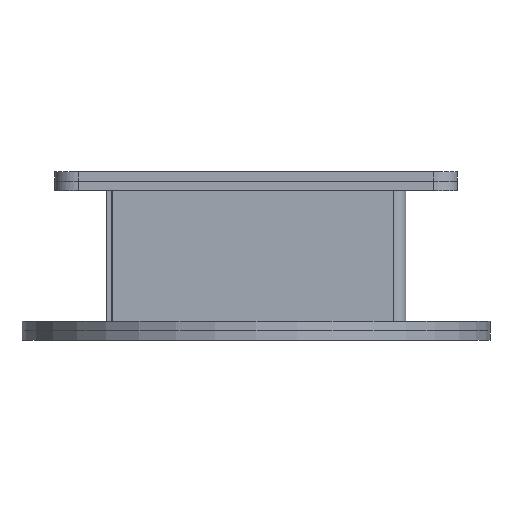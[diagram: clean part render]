
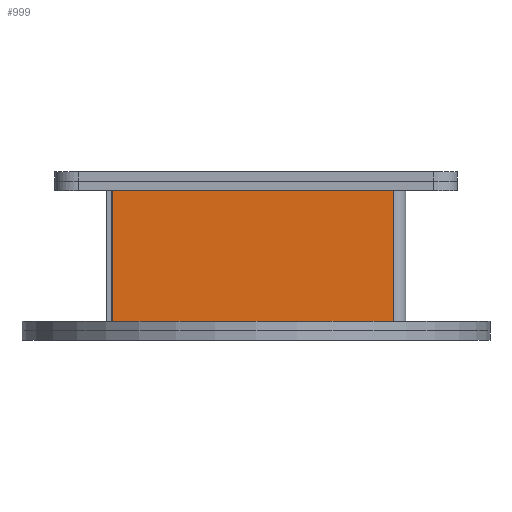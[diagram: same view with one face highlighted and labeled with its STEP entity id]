
A CAD part, front view. The second image highlights one B-rep face of the part: STEP entity #999.
In plain terms, the highlighted planar face has unit normal (0, -1, 0).
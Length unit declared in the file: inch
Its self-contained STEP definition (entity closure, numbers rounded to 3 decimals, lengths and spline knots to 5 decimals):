
#996 = EDGE_CURVE ( 'NONE', #1129, #1396, #2281, .T. ) ;
#999 = ADVANCED_FACE ( 'NONE', ( #2273 ), #2272, .T. ) ;
#1000 = EDGE_LOOP ( 'NONE', ( #1384, #1385, #1386, #1387 ) ) ;
#1022 = EDGE_CURVE ( 'NONE', #1023, #1142, #2234, .T. ) ;
#1023 = VERTEX_POINT ( 'NONE', #2230 ) ;
#1040 = EDGE_CURVE ( 'NONE', #1129, #1142, #2774, .T. ) ;
#1129 = VERTEX_POINT ( 'NONE', #3092 ) ;
#1142 = VERTEX_POINT ( 'NONE', #3129 ) ;
#1384 = ORIENTED_EDGE ( 'NONE', *, *, #996, .F. ) ;
#1385 = ORIENTED_EDGE ( 'NONE', *, *, #1040, .T. ) ;
#1386 = ORIENTED_EDGE ( 'NONE', *, *, #1022, .F. ) ;
#1387 = ORIENTED_EDGE ( 'NONE', *, *, #1388, .F. ) ;
#1388 = EDGE_CURVE ( 'NONE', #1396, #1023, #2650, .T. ) ;
#1396 = VERTEX_POINT ( 'NONE', #2646 ) ;
#2230 = CARTESIAN_POINT ( 'NONE',  ( -1.92, -3.928, 0.875 ) ) ;
#2231 = DIRECTION ( 'NONE',  ( 1., 0., 0. ) ) ;
#2232 = VECTOR ( 'NONE', #2231, 39.37008 ) ;
#2233 = CARTESIAN_POINT ( 'NONE',  ( 1.928, -3.928, 0.875 ) ) ;
#2234 = LINE ( 'NONE', #2233, #2232 ) ;
#2268 = DIRECTION ( 'NONE',  ( 1., 0., 0. ) ) ;
#2269 = DIRECTION ( 'NONE',  ( 0., -1., 0. ) ) ;
#2270 = CARTESIAN_POINT ( 'NONE',  ( 1.928, -3.928, 0.875 ) ) ;
#2271 = AXIS2_PLACEMENT_3D ( 'NONE', #2270, #2269, #2268 ) ;
#2272 = PLANE ( 'NONE',  #2271 ) ;
#2273 = FACE_OUTER_BOUND ( 'NONE', #1000, .T. ) ;
#2278 = DIRECTION ( 'NONE',  ( -1., 0., 0. ) ) ;
#2279 = VECTOR ( 'NONE', #2278, 39.37008 ) ;
#2280 = CARTESIAN_POINT ( 'NONE',  ( -1.92, -3.928, -0.875 ) ) ;
#2281 = LINE ( 'NONE', #2280, #2279 ) ;
#2588 = DIRECTION ( 'NONE',  ( 0., 0., 1. ) ) ;
#2589 = CARTESIAN_POINT ( 'NONE',  ( -1.92, -3.928, 0.875 ) ) ;
#2610 = VECTOR ( 'NONE', #2588, 39.37008 ) ;
#2646 = CARTESIAN_POINT ( 'NONE',  ( -1.92, -3.928, -0.875 ) ) ;
#2650 = LINE ( 'NONE', #2589, #2610 ) ;
#2760 = DIRECTION ( 'NONE',  ( 0., 0., 1. ) ) ;
#2761 = VECTOR ( 'NONE', #2760, 39.37008 ) ;
#2762 = CARTESIAN_POINT ( 'NONE',  ( 1.838, -3.928, 0.875 ) ) ;
#2774 = LINE ( 'NONE', #2762, #2761 ) ;
#3092 = CARTESIAN_POINT ( 'NONE',  ( 1.838, -3.928, -0.875 ) ) ;
#3129 = CARTESIAN_POINT ( 'NONE',  ( 1.838, -3.928, 0.875 ) ) ;
